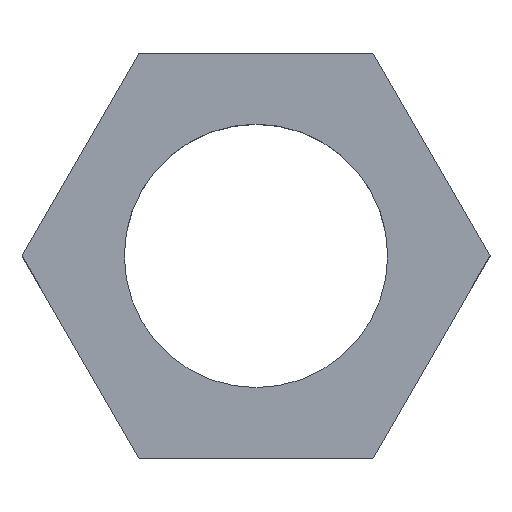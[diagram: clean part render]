
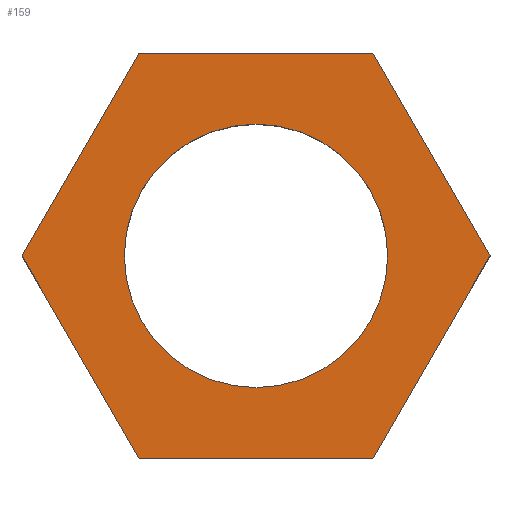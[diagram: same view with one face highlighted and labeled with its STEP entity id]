
A CAD part, top view. The second image highlights one B-rep face of the part: STEP entity #159.
In plain terms, the highlighted planar face has unit normal (0, 0, 1).
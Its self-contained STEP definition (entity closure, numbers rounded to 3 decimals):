
#13 = VERTEX_POINT ( 'NONE', #120 ) ;
#14 = VERTEX_POINT ( 'NONE', #119 ) ;
#15 = DIRECTION ( 'NONE',  ( 1., 0., 0. ) ) ;
#21 = DIRECTION ( 'NONE',  ( 0., 0., 1. ) ) ;
#26 = DIRECTION ( 'NONE',  ( -0.5, -0.866, 0. ) ) ;
#27 = CARTESIAN_POINT ( 'NONE',  ( -2.887, 5., 3. ) ) ;
#37 = DIRECTION ( 'NONE',  ( 1., 0., 0. ) ) ;
#40 = CARTESIAN_POINT ( 'NONE',  ( 0., 0., 3. ) ) ;
#42 = CARTESIAN_POINT ( 'NONE',  ( 0., 0., 3. ) ) ;
#46 = DIRECTION ( 'NONE',  ( 0., 0., 1. ) ) ;
#49 = VERTEX_POINT ( 'NONE', #117 ) ;
#51 = DIRECTION ( 'NONE',  ( -0.5, 0.866, 0. ) ) ;
#52 = VERTEX_POINT ( 'NONE', #116 ) ;
#56 = DIRECTION ( 'NONE',  ( 0.5, -0.866, 0. ) ) ;
#57 = CARTESIAN_POINT ( 'NONE',  ( 2.887, 5., 3. ) ) ;
#58 = DIRECTION ( 'NONE',  ( -1., 0., 0. ) ) ;
#59 = CARTESIAN_POINT ( 'NONE',  ( -5.774, 0., 3. ) ) ;
#61 = CARTESIAN_POINT ( 'NONE',  ( 2.887, -5., 3. ) ) ;
#62 = CARTESIAN_POINT ( 'NONE',  ( -2.887, -5., 3. ) ) ;
#64 = DIRECTION ( 'NONE',  ( 0.5, 0.866, 0. ) ) ;
#66 = DIRECTION ( 'NONE',  ( 1., 0., 0. ) ) ;
#67 = CARTESIAN_POINT ( 'NONE',  ( 5.774, 0., 3. ) ) ;
#71 = VERTEX_POINT ( 'NONE', #114 ) ;
#86 = VERTEX_POINT ( 'NONE', #112 ) ;
#88 = VERTEX_POINT ( 'NONE', #111 ) ;
#102 = DIRECTION ( 'NONE',  ( 1., 0., 0. ) ) ;
#103 = DIRECTION ( 'NONE',  ( 0., 0., 1. ) ) ;
#104 = CARTESIAN_POINT ( 'NONE',  ( 2.887, -5., 3. ) ) ;
#105 = PLANE ( 'NONE',  #182 ) ;
#107 = CARTESIAN_POINT ( 'NONE',  ( -2.887, 5., 3. ) ) ;
#111 = CARTESIAN_POINT ( 'NONE',  ( -3.25, 0., 3. ) ) ;
#112 = CARTESIAN_POINT ( 'NONE',  ( 2.887, -5., 3. ) ) ;
#114 = CARTESIAN_POINT ( 'NONE',  ( -5.774, 0., 3. ) ) ;
#116 = CARTESIAN_POINT ( 'NONE',  ( 2.887, 5., 3. ) ) ;
#117 = CARTESIAN_POINT ( 'NONE',  ( -2.887, -5., 3. ) ) ;
#119 = CARTESIAN_POINT ( 'NONE',  ( 5.774, 0., 3. ) ) ;
#120 = CARTESIAN_POINT ( 'NONE',  ( 3.25, 0., 3. ) ) ;
#125 = VERTEX_POINT ( 'NONE', #107 ) ;
#133 = EDGE_LOOP ( 'NONE', ( #225, #223 ) ) ;
#136 = ORIENTED_EDGE ( 'NONE', *, *, #190, .T. ) ;
#137 = ORIENTED_EDGE ( 'NONE', *, *, #189, .T. ) ;
#145 = ORIENTED_EDGE ( 'NONE', *, *, #191, .T. ) ;
#150 = EDGE_LOOP ( 'NONE', ( #137, #145, #153, #219, #230, #136 ) ) ;
#153 = ORIENTED_EDGE ( 'NONE', *, *, #183, .T. ) ;
#159 = ADVANCED_FACE ( 'NONE', ( #231, #232 ), #105, .T. ) ;
#170 = AXIS2_PLACEMENT_3D ( 'NONE', #40, #21, #15 ) ;
#172 = AXIS2_PLACEMENT_3D ( 'NONE', #42, #46, #37 ) ;
#182 = AXIS2_PLACEMENT_3D ( 'NONE', #104, #103, #102 ) ;
#183 = EDGE_CURVE ( 'NONE', #14, #52, #244, .T. ) ;
#184 = EDGE_CURVE ( 'NONE', #52, #125, #284, .T. ) ;
#189 = EDGE_CURVE ( 'NONE', #49, #86, #214, .T. ) ;
#190 = EDGE_CURVE ( 'NONE', #71, #49, #215, .T. ) ;
#191 = EDGE_CURVE ( 'NONE', #86, #14, #242, .T. ) ;
#196 = EDGE_CURVE ( 'NONE', #13, #88, #270, .T. ) ;
#208 = EDGE_CURVE ( 'NONE', #88, #13, #301, .T. ) ;
#209 = EDGE_CURVE ( 'NONE', #125, #71, #300, .T. ) ;
#214 = LINE ( 'NONE', #62, #280 ) ;
#215 = LINE ( 'NONE', #59, #279 ) ;
#219 = ORIENTED_EDGE ( 'NONE', *, *, #184, .T. ) ;
#223 = ORIENTED_EDGE ( 'NONE', *, *, #196, .F. ) ;
#225 = ORIENTED_EDGE ( 'NONE', *, *, #208, .F. ) ;
#230 = ORIENTED_EDGE ( 'NONE', *, *, #209, .T. ) ;
#231 = FACE_OUTER_BOUND ( 'NONE', #150, .T. ) ;
#232 = FACE_BOUND ( 'NONE', #133, .T. ) ;
#240 = VECTOR ( 'NONE', #64, 1000. ) ;
#242 = LINE ( 'NONE', #61, #240 ) ;
#244 = LINE ( 'NONE', #67, #276 ) ;
#253 = VECTOR ( 'NONE', #58, 1000. ) ;
#270 = CIRCLE ( 'NONE', #172, 3.25 ) ;
#276 = VECTOR ( 'NONE', #51, 1000. ) ;
#279 = VECTOR ( 'NONE', #56, 1000. ) ;
#280 = VECTOR ( 'NONE', #66, 1000. ) ;
#284 = LINE ( 'NONE', #57, #253 ) ;
#300 = LINE ( 'NONE', #27, #302 ) ;
#301 = CIRCLE ( 'NONE', #170, 3.25 ) ;
#302 = VECTOR ( 'NONE', #26, 1000. ) ;
